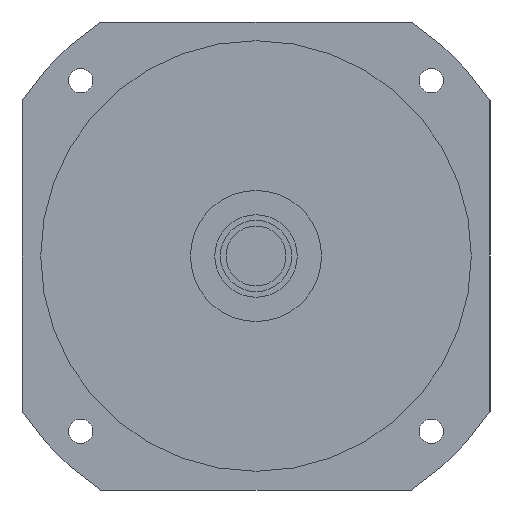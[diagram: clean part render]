
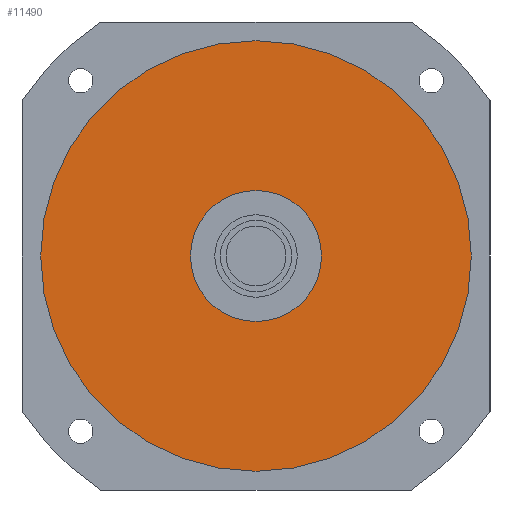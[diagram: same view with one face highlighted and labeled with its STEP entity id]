
A CAD part, left-side view. The second image highlights one B-rep face of the part: STEP entity #11490.
In plain terms, the highlighted planar face has unit normal (-1, 0, 0) as drawn and (0, 0, -1) by its records, which use the part's own axes.
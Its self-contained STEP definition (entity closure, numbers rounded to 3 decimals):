
#10930=CARTESIAN_POINT('',(-35.,0.,-80.2));
#10940=VERTEX_POINT('',#10930);
#10970=CARTESIAN_POINT('',(0.,0.,
-80.2));
#10980=DIRECTION('',(0.,0.,1.));
#10990=DIRECTION('',(0.,1.,0.));
#11000=AXIS2_PLACEMENT_3D('',#10970,#10980,#10990);
#11010=CIRCLE('',#11000,35.);
#11020=CARTESIAN_POINT('',(35.,0.,-80.2));
#11030=VERTEX_POINT('',#11020);
#11040=EDGE_CURVE('',#10940,#11030,#11010,.T.);
#11160=CARTESIAN_POINT('',(0.,0.,
-80.2));
#11170=DIRECTION('',(0.,0.,1.));
#11180=DIRECTION('',(-1.,0.,0.));
#11190=AXIS2_PLACEMENT_3D('',#11160,#11170,#11180);
#11200=PLANE('',#11190);
#11210=ORIENTED_EDGE('',*,*,#11040,.T.);
#11220=CARTESIAN_POINT('',(0.,35.,-80.2));
#11230=VERTEX_POINT('',#11220);
#11240=EDGE_CURVE('',#11230,#10940,#11010,.T.);
#11250=ORIENTED_EDGE('',*,*,#11240,.T.);
#11260=EDGE_CURVE('',#11030,#11230,#11010,.T.);
#11270=ORIENTED_EDGE('',*,*,#11260,.T.);
#11280=EDGE_LOOP('',(#11270,#11250,#11210));
#11290=FACE_BOUND('',#11280,.T.);
#11300=CARTESIAN_POINT('',(0.,0.,
-80.2));
#11310=DIRECTION('',(0.,0.,1.));
#11320=DIRECTION('',(0.,1.,0.));
#11330=AXIS2_PLACEMENT_3D('',#11300,#11310,#11320);
#11340=CIRCLE('',#11330,115.);
#11350=CARTESIAN_POINT('',(0.,115.,-80.2));
#11360=VERTEX_POINT('',#11350);
#11370=CARTESIAN_POINT('',(-115.,0.,-80.2));
#11380=VERTEX_POINT('',#11370);
#11390=EDGE_CURVE('',#11360,#11380,#11340,.T.);
#11400=ORIENTED_EDGE('',*,*,#11390,.F.);
#11410=CARTESIAN_POINT('',(115.,0.,-80.2));
#11420=VERTEX_POINT('',#11410);
#11430=EDGE_CURVE('',#11380,#11420,#11340,.T.);
#11440=ORIENTED_EDGE('',*,*,#11430,.F.);
#11450=EDGE_CURVE('',#11420,#11360,#11340,.T.);
#11460=ORIENTED_EDGE('',*,*,#11450,.F.);
#11470=EDGE_LOOP('',(#11460,#11440,#11400));
#11480=FACE_OUTER_BOUND('',#11470,.T.);
#11490=ADVANCED_FACE('',(#11290,#11480),#11200,.F.);
